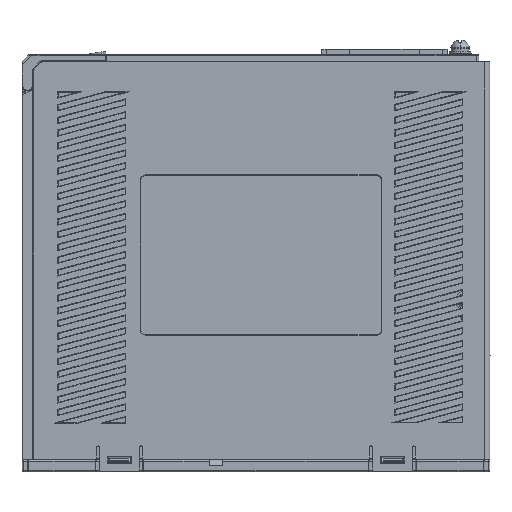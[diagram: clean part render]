
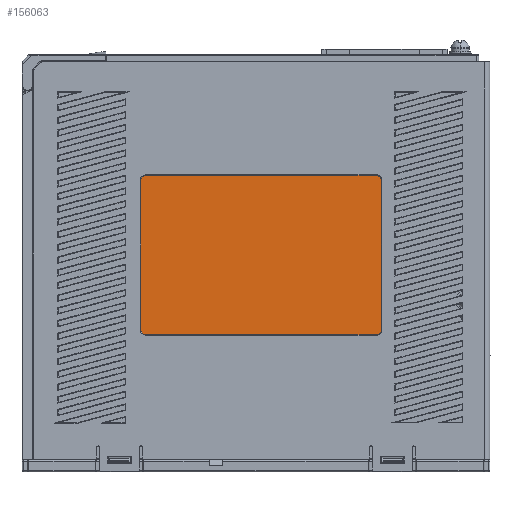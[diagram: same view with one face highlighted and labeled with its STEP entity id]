
A CAD part, left-side view. The second image highlights one B-rep face of the part: STEP entity #156063.
In plain terms, the highlighted planar face has unit normal (-1, 0, 0).
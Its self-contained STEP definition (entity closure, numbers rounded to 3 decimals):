
#27844=CARTESIAN_POINT('',(0.5,130.6,
-102.7));
#27849=CARTESIAN_POINT('',(0.5,130.6,
-47.1));
#27854=CARTESIAN_POINT('',(0.5,128.6,
-45.1));
#27859=CARTESIAN_POINT('',(0.5,42.6,
-45.1));
#27864=CARTESIAN_POINT('',(0.5,40.6,
-47.1));
#27869=CARTESIAN_POINT('',(0.5,40.6,
-102.7));
#27874=CARTESIAN_POINT('',(0.5,42.6,
-104.7));
#27881=CARTESIAN_POINT('',(0.5,128.6,
-102.7));
#27882=DIRECTION('',(1.,0.,0.));
#27883=DIRECTION('',(0.,0.,-1.));
#27884=AXIS2_PLACEMENT_3D('',#27881,#27882,#27883);
#27886=DIRECTION('',(0.,0.,1.));
#27887=VECTOR('',#27886,55.6);
#27888=CARTESIAN_POINT('',(0.5,130.6,
-102.7));
#27889=LINE('',#27888,#27887);
#27890=CARTESIAN_POINT('',(0.5,128.6,
-47.1));
#27891=DIRECTION('',(1.,0.,0.));
#27892=DIRECTION('',(0.,1.,0.));
#27893=AXIS2_PLACEMENT_3D('',#27890,#27891,#27892);
#27895=DIRECTION('',(0.,-1.,0.));
#27896=VECTOR('',#27895,86.);
#27897=CARTESIAN_POINT('',(0.5,128.6,
-45.1));
#27898=LINE('',#27897,#27896);
#27899=CARTESIAN_POINT('',(0.5,42.6,-47.1));
#27900=DIRECTION('',(1.,0.,0.));
#27901=DIRECTION('',(0.,0.,1.));
#27902=AXIS2_PLACEMENT_3D('',#27899,#27900,#27901);
#27904=DIRECTION('',(0.,0.,-1.));
#27905=VECTOR('',#27904,55.6);
#27906=CARTESIAN_POINT('',(0.5,40.6,
-47.1));
#27907=LINE('',#27906,#27905);
#27908=CARTESIAN_POINT('',(0.5,42.6,
-102.7));
#27909=DIRECTION('',(1.,0.,0.));
#27910=DIRECTION('',(0.,-1.,0.));
#27911=AXIS2_PLACEMENT_3D('',#27908,#27909,#27910);
#27913=DIRECTION('',(0.,1.,0.));
#27914=VECTOR('',#27913,86.);
#27915=CARTESIAN_POINT('',(0.5,42.6,
-104.7));
#27916=LINE('',#27915,#27914);
#113705=VERTEX_POINT('',#27844);
#113706=CARTESIAN_POINT('',(0.5,128.6,
-104.7));
#113707=VERTEX_POINT('',#113706);
#113708=VERTEX_POINT('',#27849);
#113709=VERTEX_POINT('',#27854);
#113710=VERTEX_POINT('',#27859);
#113711=VERTEX_POINT('',#27864);
#113712=VERTEX_POINT('',#27869);
#113713=VERTEX_POINT('',#27874);
#156048=CARTESIAN_POINT('',(0.5,87.5,0.));
#156049=DIRECTION('',(-1.,0.,0.));
#156050=DIRECTION('',(0.,1.,0.));
#156051=AXIS2_PLACEMENT_3D('',#156048,#156049,#156050);
#156052=PLANE('',#156051);
#156053=ORIENTED_EDGE('',*,*,#155906,.T.);
#156054=ORIENTED_EDGE('',*,*,#155926,.T.);
#156055=ORIENTED_EDGE('',*,*,#155946,.T.);
#156056=ORIENTED_EDGE('',*,*,#155965,.T.);
#156057=ORIENTED_EDGE('',*,*,#155985,.T.);
#156058=ORIENTED_EDGE('',*,*,#156004,.T.);
#156059=ORIENTED_EDGE('',*,*,#156024,.T.);
#156060=ORIENTED_EDGE('',*,*,#156042,.T.);
#156061=EDGE_LOOP('',(#156053,#156054,#156055,#156056,#156057,#156058,#156059,
#156060));
#156062=FACE_OUTER_BOUND('',#156061,.F.);
#156063=ADVANCED_FACE('',(#156062),#156052,.T.);
#27885=CIRCLE('',#27884,2.);
#27894=CIRCLE('',#27893,2.);
#27903=CIRCLE('',#27902,2.);
#27912=CIRCLE('',#27911,2.);
#155906=EDGE_CURVE('',#113707,#113705,#27885,.T.);
#155926=EDGE_CURVE('',#113705,#113708,#27889,.T.);
#155946=EDGE_CURVE('',#113708,#113709,#27894,.T.);
#155965=EDGE_CURVE('',#113709,#113710,#27898,.T.);
#155985=EDGE_CURVE('',#113710,#113711,#27903,.T.);
#156004=EDGE_CURVE('',#113711,#113712,#27907,.T.);
#156024=EDGE_CURVE('',#113712,#113713,#27912,.T.);
#156042=EDGE_CURVE('',#113713,#113707,#27916,.T.);
